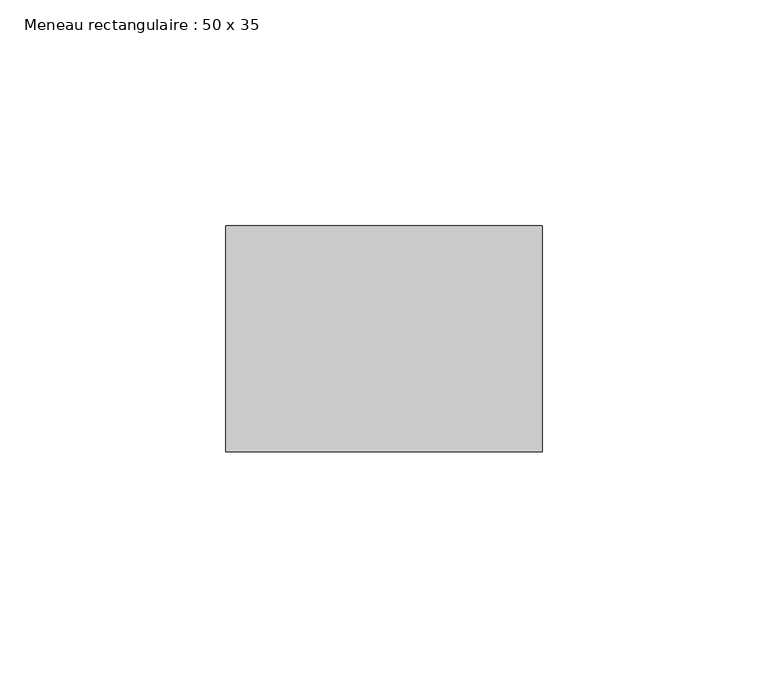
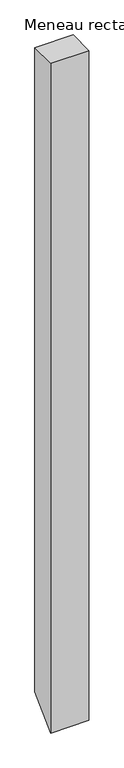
"""IFC4 building model written with IfcOpenShell, lengths in millimetres: member geometry, Meneau rectangulaire : 50 x 35."""

import ifcopenshell
import ifcopenshell.guid

model = None  # the IFC model being written
_history = None  # IfcOwnerHistory: only IFC2X3 demands one
_inside = {}  # id of a spatial element -> (the spatial element, [elements in it])
_under = {}  # id of a project, library or spatial element -> (it, [spatial elements below it])
_declared = {}  # id of a project -> (the project, [libraries it declares])
_typed = {}  # id of a type object -> (the type object, [elements of that type])
_made_of = {}  # id of a material, layer set ... -> (it, [elements and type objects made of it])


def new_model(schema):
    """Start an empty IFC model of exactly this schema.

    Asked for "IFC4X3", IfcOpenShell would pick the latest addendum, in which some entities
    have other attributes; the version numbers below select the first issue.
    IFC2X3 requires an IfcOwnerHistory on every rooted entity: one is made here for all.
    """
    global model, _history
    if schema == "IFC4X3":
        model = ifcopenshell.file(schema_version=(4, 3, 0, 0))
    else:
        model = ifcopenshell.file(schema=schema)
    _inside.clear()
    _under.clear()
    _declared.clear()
    _typed.clear()
    _made_of.clear()
    _history = None
    if model.schema == "IFC2X3":
        org = make("IfcOrganization", Name="unknown")
        user = make(
            "IfcPersonAndOrganization",
            ThePerson=make("IfcPerson", FamilyName="unknown"),
            TheOrganization=org,
        )
        app = make(
            "IfcApplication",
            ApplicationDeveloper=org,
            Version="unknown",
            ApplicationFullName="unknown",
            ApplicationIdentifier="unknown",
        )
        _history = make(
            "IfcOwnerHistory",
            OwningUser=user,
            OwningApplication=app,
            ChangeAction="ADDED",
            CreationDate=0,
        )
    return model


def make(cls, **values):
    """One entity of the class cls with the attributes given. An attribute that is None is left unset."""
    return model.create_entity(
        cls, **{name: value for name, value in values.items() if value is not None}
    )


def rooted(cls, **values):
    """An entity with a GlobalId (a new one), such as an element, a storey or a relation."""
    return make(cls, GlobalId=ifcopenshell.guid.new(), OwnerHistory=_history, **values)


def si_unit(unit_type, name, prefix=None):
    """IfcSIUnit, for example si_unit("LENGTHUNIT", "METRE", prefix="MILLI")."""
    return make("IfcSIUnit", UnitType=unit_type, Prefix=prefix, Name=name)


def assignment(units):
    """IfcUnitAssignment: the units of a project."""
    return None if units is None else make("IfcUnitAssignment", Units=units)


def point(xyz):
    """IfcCartesianPoint."""
    return None if xyz is None else make("IfcCartesianPoint", Coordinates=xyz)


def direction(xyz):
    """IfcDirection."""
    return None if xyz is None else make("IfcDirection", DirectionRatios=xyz)


def frame(location, z_axis=None, x_axis=None):
    """IfcAxis2Placement3D, a coordinate frame: its origin and axes. An axis left out is left unset."""
    return make(
        "IfcAxis2Placement3D",
        Location=point(location),
        Axis=direction(z_axis),
        RefDirection=direction(x_axis),
    )


def origin():
    """The frame at (0, 0, 0) with its axes left unset."""
    return frame((0.0, 0.0, 0.0))


def place(relative_to, where):
    """IfcLocalPlacement: puts the frame where relative to a parent placement (None: the world)."""
    return make(
        "IfcLocalPlacement", PlacementRelTo=relative_to, RelativePlacement=where
    )


def context(
    kind, dimensions, precision=None, world=None, true_north=None, identifier=None
):
    """IfcGeometricRepresentationContext, for example the 3D "Model" context."""
    return make(
        "IfcGeometricRepresentationContext",
        ContextIdentifier=identifier,
        ContextType=kind,
        CoordinateSpaceDimension=dimensions,
        Precision=precision,
        WorldCoordinateSystem=world,
        TrueNorth=true_north,
    )


def project(units=None, contexts=None):
    """IfcProject with its units and contexts."""
    return rooted(
        "IfcProject",
        Name="project",
        RepresentationContexts=contexts,
        UnitsInContext=assignment(units),
    )


def spatial(cls, under=None, at=None, **own):
    """A site, building, storey or space (cls), placed at a placement, below another one or the project."""
    s = rooted(cls, ObjectPlacement=at, **own)
    if under is not None:
        _under.setdefault(under.id(), (under, []))[1].append(s)
    return s


def polyline(points):
    """IfcPolyline through the points."""
    return make("IfcPolyline", Points=[point(p) for p in points])


def outline(outer, holes=None, kind="AREA"):
    """IfcArbitraryClosedProfileDef: a profile drawn as a closed curve; with holes, ...WithVoids."""
    if holes is None:
        return make("IfcArbitraryClosedProfileDef", ProfileType=kind, OuterCurve=outer)
    return make(
        "IfcArbitraryProfileDefWithVoids",
        ProfileType=kind,
        OuterCurve=outer,
        InnerCurves=holes,
    )


def extrude(swept, where, along, depth):
    """IfcExtrudedAreaSolid: the profile swept, set in the frame where, extruded along a direction by depth."""
    return make(
        "IfcExtrudedAreaSolid",
        SweptArea=swept,
        Position=where,
        ExtrudedDirection=direction(along),
        Depth=depth,
    )


def shape(context_of_items, identifier, shape_type, items):
    """IfcShapeRepresentation: the items that make up one representation, for example the "Body"."""
    return make(
        "IfcShapeRepresentation",
        ContextOfItems=context_of_items,
        RepresentationIdentifier=identifier,
        RepresentationType=shape_type,
        Items=items,
    )


def source(mapping_origin, context_of_items, identifier, shape_type, items):
    """IfcRepresentationMap: a shape defined once, which mapped items show again and again."""
    return make(
        "IfcRepresentationMap",
        MappingOrigin=mapping_origin,
        MappedRepresentation=shape(context_of_items, identifier, shape_type, items),
    )


def transform(
    local_origin,
    x_axis=None,
    y_axis=None,
    z_axis=None,
    scale=None,
    scale2=None,
    scale3=None,
    uniform=True,
):
    """IfcCartesianTransformationOperator3D, or its non-uniform kind. x_axis, y_axis, z_axis: its Axis1, 2, 3."""
    if uniform:
        return make(
            "IfcCartesianTransformationOperator3D",
            Axis1=direction(x_axis),
            Axis2=direction(y_axis),
            LocalOrigin=point(local_origin),
            Scale=scale,
            Axis3=direction(z_axis),
        )
    return make(
        "IfcCartesianTransformationOperator3DnonUniform",
        Axis1=direction(x_axis),
        Axis2=direction(y_axis),
        LocalOrigin=point(local_origin),
        Scale=scale,
        Axis3=direction(z_axis),
        Scale2=scale2,
        Scale3=scale3,
    )


def mapped(mapping_source, mapping_target):
    """IfcMappedItem: shows the shape of a source again, moved by a transform."""
    return make(
        "IfcMappedItem", MappingSource=mapping_source, MappingTarget=mapping_target
    )


def made_of(thing, what):
    """Note that an element or type object is made of a material, layer set ...; save() writes the relation."""
    if what is not None:
        _made_of.setdefault(what.id(), (what, []))[1].append(thing)
    return thing


def element(
    cls,
    number,
    at=None,
    inside=None,
    cuts=None,
    type_object=None,
    material=None,
    context=None,
    identifier="Body",
    shape_type=None,
    held_by="IfcProductDefinitionShape",
    body=None,
    shapes=None,
    **own,
):
    """One element of the class cls, such as IfcWall. Its Tag is "e" and its number.

    at: its placement. inside: the storey or other place that contains it. cuts: it is an
    opening in that element (IfcRelVoidsElement). A single representation is given by context,
    identifier, shape_type and body (its items); several are given by shapes. held_by: the class
    of the entity that holds the representations. save() writes the other relations.
    """
    e = rooted(cls, Tag="e%d" % number, ObjectPlacement=at, **own)
    if body is not None:
        shapes = [shape(context, identifier, shape_type, body)]
    if shapes is not None:
        e.Representation = make(held_by, Representations=shapes)
    if inside is not None:
        _inside.setdefault(inside.id(), (inside, []))[1].append(e)
    if cuts is not None:
        rooted(
            "IfcRelVoidsElement", RelatingBuildingElement=cuts, RelatedOpeningElement=e
        )
    if type_object is not None:
        _typed.setdefault(type_object.id(), (type_object, []))[1].append(e)
    return made_of(e, material)


def aggregate(whole, parts):
    """IfcRelAggregates: a whole, such as a stair, and the parts it consists of."""
    return rooted("IfcRelAggregates", RelatingObject=whole, RelatedObjects=parts)


def save(model, path):
    """Write the relations noted so far, then the file.

    IfcRelAggregates (storeys below a building ...), IfcRelContainedInSpatialStructure (elements
    in a storey), IfcRelDefinesByType, IfcRelAssociatesMaterial and IfcRelDeclares: one each for
    every whole, place, type object, material and project.
    """
    for whole, parts in _under.values():
        aggregate(whole, parts)
    for where, things in _inside.values():
        rooted(
            "IfcRelContainedInSpatialStructure",
            RelatedElements=things,
            RelatingStructure=where,
        )
    for kind, things in _typed.values():
        rooted("IfcRelDefinesByType", RelatedObjects=things, RelatingType=kind)
    for what, things in _made_of.values():
        rooted("IfcRelAssociatesMaterial", RelatedObjects=things, RelatingMaterial=what)
    for by, libraries in _declared.values():
        rooted("IfcRelDeclares", RelatingContext=by, RelatedDefinitions=libraries)
    model.write(path)


def meneau_rectangulaire_50_x_35_297595a9(model_context):
    return source(origin(), model_context, "Body", "SweptSolid", [
        extrude(outline(polyline([(-50.0, 0.0), (0.0, 0.0), (0.0, -1245.6798872), (-50.0, -1295.6798872), (-50.0, 0.0)])), frame((-70.0, 0.0, 0.0), z_axis=(1.0, 0.0, 0.0), x_axis=(0.0, 1.0, 0.0)), (0.0, 0.0, 1.0), 70.0),
    ])


if __name__ == "__main__":
    model = new_model("IFC4")
    model_context = context("Model", 3, world=origin())
    ifc_project = project(units=[si_unit("LENGTHUNIT", "METRE", prefix="MILLI")], contexts=[model_context])
    site = spatial("IfcSite", under=ifc_project)
    building = spatial("IfcBuilding", under=site)
    placement = place(None, origin())
    meneau_rectangulaire_50_x_35_shape = meneau_rectangulaire_50_x_35_297595a9(model_context)
    element("IfcMember", 1, ObjectType="Meneau rectangulaire : 50 x 35", at=placement, inside=building, context=model_context, shape_type="MappedRepresentation", body=[
        mapped(meneau_rectangulaire_50_x_35_shape, transform((0.0, 0.0, 0.0), x_axis=(1.0, 0.0, 0.0), y_axis=(0.0, 1.0, 0.0), z_axis=(0.0, 0.0, 1.0))),
    ])
    save(model, "model.ifc")
